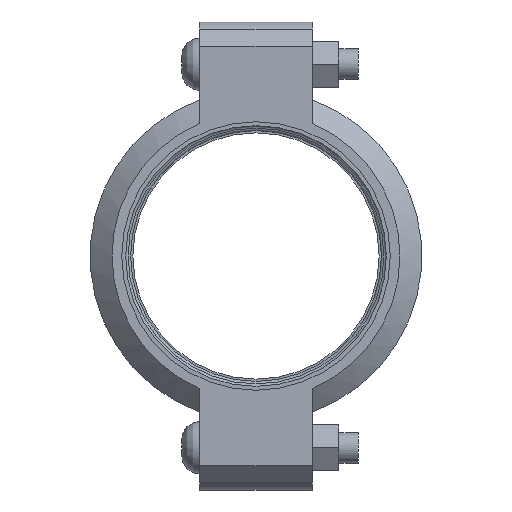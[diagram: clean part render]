
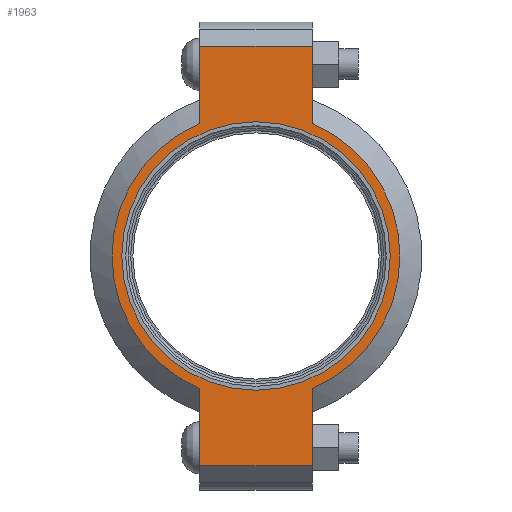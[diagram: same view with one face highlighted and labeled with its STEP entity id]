
A CAD part, left-side view. The second image highlights one B-rep face of the part: STEP entity #1963.
In plain terms, the highlighted planar face has unit normal (-1, 0, 0) as drawn and (0, 0, 1) by its records, which use the part's own axes.
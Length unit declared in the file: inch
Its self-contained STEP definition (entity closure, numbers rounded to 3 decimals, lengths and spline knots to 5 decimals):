
#152=LINE('',#3479,#249);
#160=LINE('',#3515,#257);
#167=LINE('',#3536,#264);
#176=LINE('',#3568,#273);
#177=LINE('',#3572,#274);
#178=LINE('',#3574,#275);
#249=VECTOR('',#2835,0.3937);
#257=VECTOR('',#2851,0.3937);
#264=VECTOR('',#2870,0.3937);
#273=VECTOR('',#2895,0.3937);
#274=VECTOR('',#2900,0.3937);
#275=VECTOR('',#2901,0.3937);
#331=FACE_BOUND('',#581,.T.);
#375=PLANE('',#2302);
#463=FACE_OUTER_BOUND('',#580,.T.);
#580=EDGE_LOOP('',(#1684,#1685,#1686,#1687,#1688,#1689,#1690,#1691));
#581=EDGE_LOOP('',(#1692));
#753=CIRCLE('',#2303,2.95);
#754=CIRCLE('',#2304,2.95);
#755=CIRCLE('',#2305,2.75);
#917=VERTEX_POINT('',#3476);
#918=VERTEX_POINT('',#3478);
#929=VERTEX_POINT('',#3510);
#930=VERTEX_POINT('',#3514);
#937=VERTEX_POINT('',#3533);
#938=VERTEX_POINT('',#3535);
#948=VERTEX_POINT('',#3571);
#949=VERTEX_POINT('',#3573);
#950=VERTEX_POINT('',#3576);
#1162=EDGE_CURVE('',#918,#917,#152,.T.);
#1176=EDGE_CURVE('',#930,#929,#160,.T.);
#1186=EDGE_CURVE('',#938,#937,#167,.T.);
#1201=EDGE_CURVE('',#930,#917,#176,.T.);
#1202=EDGE_CURVE('',#929,#938,#753,.T.);
#1203=EDGE_CURVE('',#948,#937,#177,.T.);
#1204=EDGE_CURVE('',#948,#949,#178,.T.);
#1205=EDGE_CURVE('',#949,#918,#754,.T.);
#1206=EDGE_CURVE('',#950,#950,#755,.T.);
#1684=ORIENTED_EDGE('',*,*,#1201,.F.);
#1685=ORIENTED_EDGE('',*,*,#1176,.T.);
#1686=ORIENTED_EDGE('',*,*,#1202,.T.);
#1687=ORIENTED_EDGE('',*,*,#1186,.T.);
#1688=ORIENTED_EDGE('',*,*,#1203,.F.);
#1689=ORIENTED_EDGE('',*,*,#1204,.T.);
#1690=ORIENTED_EDGE('',*,*,#1205,.T.);
#1691=ORIENTED_EDGE('',*,*,#1162,.T.);
#1692=ORIENTED_EDGE('',*,*,#1206,.T.);
#1963=ADVANCED_FACE('',(#463,#331),#375,.T.);
#2302=AXIS2_PLACEMENT_3D('',#3569,#2896,#2897);
#2303=AXIS2_PLACEMENT_3D('',#3570,#2898,#2899);
#2304=AXIS2_PLACEMENT_3D('',#3575,#2902,#2903);
#2305=AXIS2_PLACEMENT_3D('',#3577,#2904,#2905);
#2835=DIRECTION('',(1.,0.,0.));
#2851=DIRECTION('',(-1.,0.,0.));
#2870=DIRECTION('',(-1.,0.,0.));
#2895=DIRECTION('',(0.,-1.,0.));
#2896=DIRECTION('center_axis',(0.,0.,1.));
#2897=DIRECTION('ref_axis',(-1.,0.,0.));
#2898=DIRECTION('center_axis',(0.,0.,1.));
#2899=DIRECTION('ref_axis',(1.,0.,0.));
#2900=DIRECTION('',(0.,1.,0.));
#2901=DIRECTION('',(1.,0.,0.));
#2902=DIRECTION('center_axis',(0.,0.,1.));
#2903=DIRECTION('ref_axis',(1.,0.,0.));
#2904=DIRECTION('center_axis',(0.,0.,-1.));
#2905=DIRECTION('ref_axis',(1.,0.,0.));
#3476=CARTESIAN_POINT('',(4.295,-1.15,1.065));
#3478=CARTESIAN_POINT('',(2.71662,-1.15,1.065));
#3479=CARTESIAN_POINT('',(4.795,-1.15,1.065));
#3510=CARTESIAN_POINT('',(2.71662,1.15,1.065));
#3514=CARTESIAN_POINT('',(4.295,1.15,1.065));
#3515=CARTESIAN_POINT('',(-4.795,1.15,1.065));
#3533=CARTESIAN_POINT('',(-4.295,1.15,1.065));
#3535=CARTESIAN_POINT('',(-2.71662,1.15,1.065));
#3536=CARTESIAN_POINT('',(-4.795,1.15,1.065));
#3568=CARTESIAN_POINT('',(4.295,-0.575,1.065));
#3569=CARTESIAN_POINT('Origin',(0.,0.,
1.065));
#3570=CARTESIAN_POINT('Origin',(0.,0.,1.065));
#3571=CARTESIAN_POINT('',(-4.295,-1.15,1.065));
#3572=CARTESIAN_POINT('',(-4.295,0.575,1.065));
#3573=CARTESIAN_POINT('',(-2.71662,-1.15,1.065));
#3574=CARTESIAN_POINT('',(4.795,-1.15,1.065));
#3575=CARTESIAN_POINT('Origin',(0.,0.,1.065));
#3576=CARTESIAN_POINT('',(-2.75,0.,1.065));
#3577=CARTESIAN_POINT('Origin',(0.,0.,1.065));
